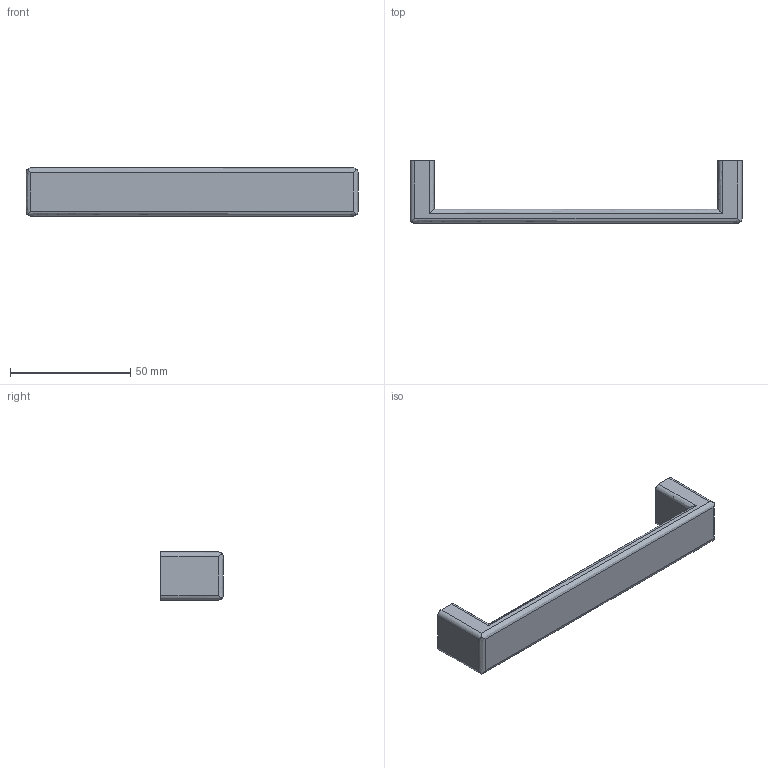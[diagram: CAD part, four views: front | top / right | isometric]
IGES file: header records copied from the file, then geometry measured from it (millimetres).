
Start section: Data from Parasolid IGES Translator 15.0.47, Copyright(c) 2006 Siemens P LM Software. All Rights Reserved.
Global section: file name: 9995436.igs; native system:  By UGS Corp.; preprocessor: XPlus GENERIC/IGES 3.0; author: Noname; organization: Noname; date: 20140122.182821; units: millimetre
Bounding box: 138 x 25.9 x 20 mm (x, y, z)
Surface area: 9330.2 mm2 (no closed solid volume)
Topology: 0 solids, 0 shells, 28 faces, 136 edges, 134 vertices
Faces by surface type: revolution 16, extrusion 12
